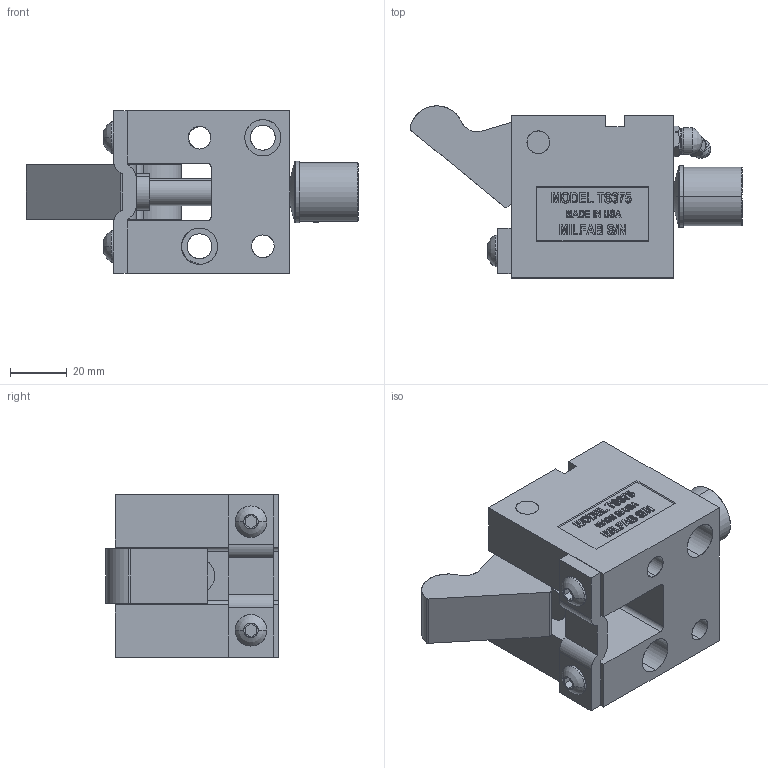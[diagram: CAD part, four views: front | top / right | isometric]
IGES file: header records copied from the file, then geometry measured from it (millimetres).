
Start section: SolidWorks IGES file using analytic representation for surfaces
Global section: file name: Y:\JIM'S INCH CAM UNITS\TS37545\OPEN\TS37545-O.IGS; native system: SolidWorks 2006 by SolidWorks Corporation; preprocessor: SolidWorks 2006 by SolidWorks Corporation; author: Jim; date: 090210.113329; units: inch
Bounding box: 116.56 x 60.44 x 57.15 mm (x, y, z)
Surface area: 47316.1 mm2 (no closed solid volume)
Topology: 0 solids, 0 shells, 580 faces, 6933 edges, 6929 vertices
Faces by surface type: bspline 454, revolution 126
